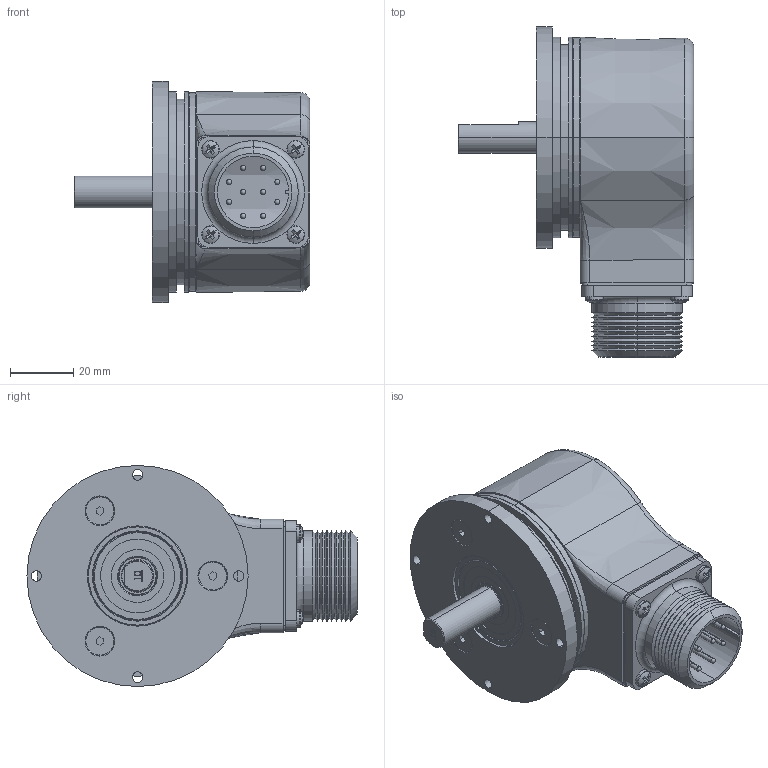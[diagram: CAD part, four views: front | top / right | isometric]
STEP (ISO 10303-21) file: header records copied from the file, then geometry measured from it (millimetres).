
FILE_DESCRIPTION (( 'STEP AP203' ), '1' );
FILE_NAME ('847H-ELXX-RHXXXXX.step', '2014-10-09T17:34:33', ( 'Windows 7 64-Bit' ), ( 'SICK Inc.' ), 'SwSTEP 2.0', 'SolidWorks 2014', '' );
FILE_SCHEMA (( 'CONFIG_CONTROL_DESIGN' ));
Length unit declared in the file: millimetre
Products named in the file (1): 847H-ELXX-RHXXXXX
Bounding box: 74.69 x 104.46 x 70 mm (x, y, z)
Surface area: 34420.2 mm2 (no closed solid volume)
Topology: 0 solids, 28 shells, 300 faces, 833 edges, 540 vertices
Faces by surface type: plane 103, cylinder 95, cone 56, sphere 18, torus 15, bspline 13
Entity records: 10198 total; most frequent: CARTESIAN_POINT 2549, DIRECTION 1737, ORIENTED_EDGE 1375, EDGE_CURVE 791, AXIS2_PLACEMENT_3D 702, VERTEX_POINT 520, CIRCLE 414, EDGE_LOOP 356
